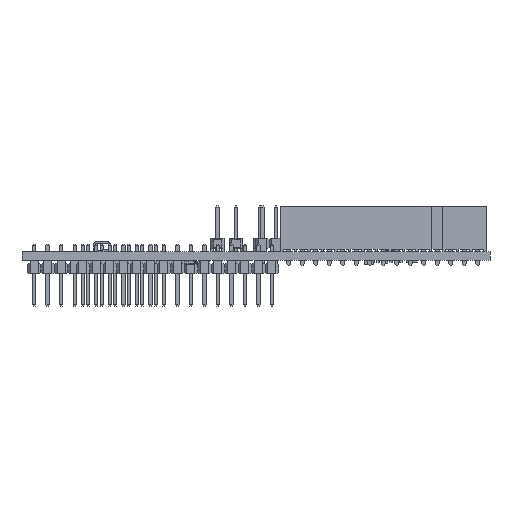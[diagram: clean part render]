
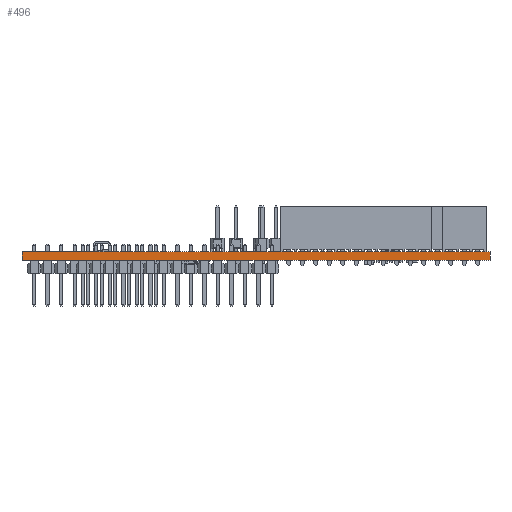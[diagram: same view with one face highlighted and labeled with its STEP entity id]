
A CAD part, front view. The second image highlights one B-rep face of the part: STEP entity #496.
In plain terms, the highlighted planar face has unit normal (0, -1, 0).
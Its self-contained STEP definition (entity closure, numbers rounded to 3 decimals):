
#471 = VERTEX_POINT('',#472);
#472 = CARTESIAN_POINT('',(88.,0.,1.578));
#478 = EDGE_CURVE('',#479,#471,#481,.T.);
#479 = VERTEX_POINT('',#480);
#480 = CARTESIAN_POINT('',(88.,0.,0.));
#481 = LINE('',#482,#483);
#482 = CARTESIAN_POINT('',(88.,0.,0.));
#483 = VECTOR('',#484,1.);
#484 = DIRECTION('',(0.,0.,1.));
#496 = ADVANCED_FACE('',(#497),#522,.T.);
#497 = FACE_BOUND('',#498,.T.);
#498 = EDGE_LOOP('',(#499,#500,#508,#516));
#499 = ORIENTED_EDGE('',*,*,#478,.T.);
#500 = ORIENTED_EDGE('',*,*,#501,.T.);
#501 = EDGE_CURVE('',#471,#502,#504,.T.);
#502 = VERTEX_POINT('',#503);
#503 = CARTESIAN_POINT('',(0.,0.,1.578));
#504 = LINE('',#505,#506);
#505 = CARTESIAN_POINT('',(88.,0.,1.578));
#506 = VECTOR('',#507,1.);
#507 = DIRECTION('',(-1.,0.,0.));
#508 = ORIENTED_EDGE('',*,*,#509,.F.);
#509 = EDGE_CURVE('',#510,#502,#512,.T.);
#510 = VERTEX_POINT('',#511);
#511 = CARTESIAN_POINT('',(0.,0.,0.));
#512 = LINE('',#513,#514);
#513 = CARTESIAN_POINT('',(0.,0.,0.));
#514 = VECTOR('',#515,1.);
#515 = DIRECTION('',(0.,0.,1.));
#516 = ORIENTED_EDGE('',*,*,#517,.F.);
#517 = EDGE_CURVE('',#479,#510,#518,.T.);
#518 = LINE('',#519,#520);
#519 = CARTESIAN_POINT('',(88.,0.,0.));
#520 = VECTOR('',#521,1.);
#521 = DIRECTION('',(-1.,0.,0.));
#522 = PLANE('',#523);
#523 = AXIS2_PLACEMENT_3D('',#524,#525,#526);
#524 = CARTESIAN_POINT('',(88.,0.,0.));
#525 = DIRECTION('',(0.,-1.,0.));
#526 = DIRECTION('',(-1.,0.,0.));
